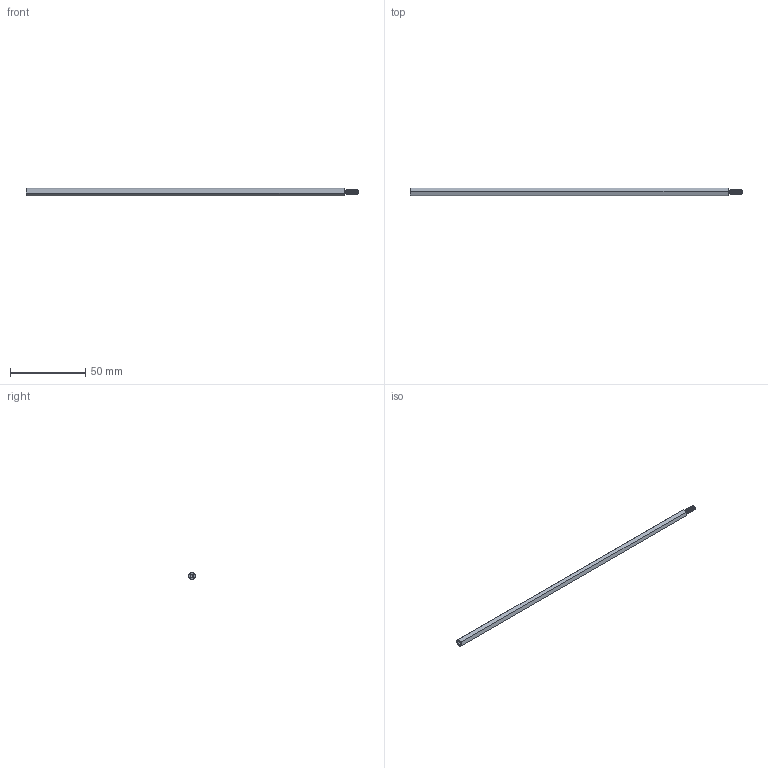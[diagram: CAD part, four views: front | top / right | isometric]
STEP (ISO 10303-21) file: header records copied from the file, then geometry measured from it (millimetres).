
FILE_DESCRIPTION (( 'STEP AP214' ), '1' );
FILE_NAME ('STANDOFF-M3X0.5-212-MF.STEP', '2019-05-21T22:26:14', ( '' ), ( '' ), 'SwSTEP 2.0', 'SolidWorks 2016', '' );
FILE_SCHEMA (( 'AUTOMOTIVE_DESIGN' ));
Length unit declared in the file: millimetre
Products named in the file (1): STANDOFF-M3X0.5-212-MF
Bounding box: 221 x 4.99 x 5.04 mm (x, y, z)
Volume: 3734.7 mm3; surface area: 3513.5 mm2
Topology: 1 solids, 1 shells, 67 faces, 175 edges, 110 vertices
Faces by surface type: cylinder 35, cone 20, plane 9, bspline 3
Entity records: 4227 total; most frequent: CARTESIAN_POINT 2812, ORIENTED_EDGE 346, DIRECTION 230, EDGE_CURVE 173, VERTEX_POINT 110, AXIS2_PLACEMENT_3D 91, EDGE_LOOP 69, FACE_OUTER_BOUND 67
